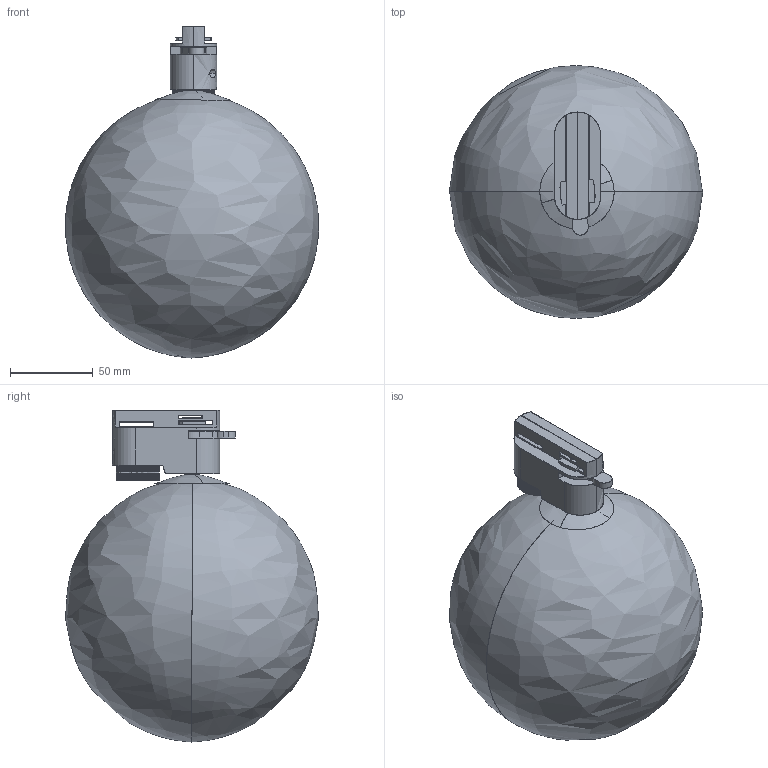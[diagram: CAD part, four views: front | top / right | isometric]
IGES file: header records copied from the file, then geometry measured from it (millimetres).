
Start section: SolidWorks IGES file using analytic representation for surfaces
Global section: file name: Y:\PRODUKT\Modele_3D_WWW\PROFILE SNOW BALL\PROFILE SNOW BALL plafon z adapterem 9465\PROFILE SNOW BALL plafon PM\PROFILE SNOW BALL PLAFON PM.IGS; native system: SolidWorks 2023; preprocessor: SolidWorks 2023; author: anna.bielnik; date: 240506.100429; units: millimetre
Bounding box: 153.23 x 153.02 x 200.82 mm (x, y, z)
Surface area: 173299.8 mm2 (no closed solid volume)
Topology: 0 solids, 0 shells, 741 faces, 5012 edges, 4992 vertices
Faces by surface type: bspline 530, revolution 211
